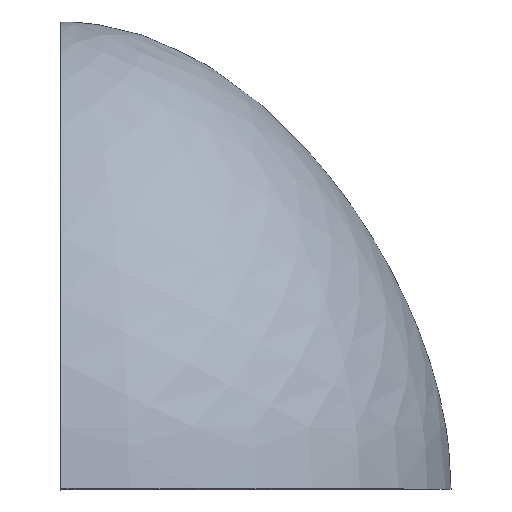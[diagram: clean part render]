
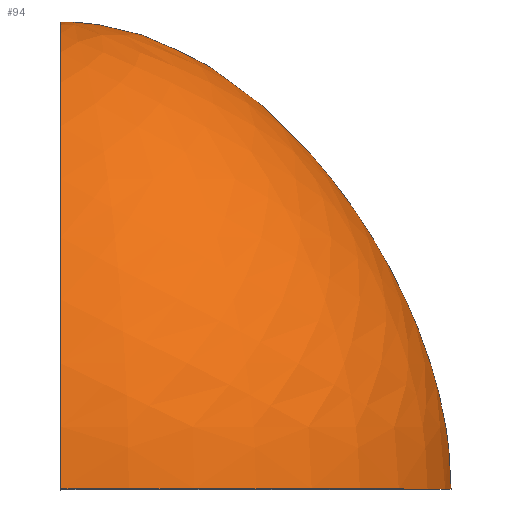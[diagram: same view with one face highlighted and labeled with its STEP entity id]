
A CAD part, top view. The second image highlights one B-rep face of the part: STEP entity #94.
In plain terms, the highlighted face is a revolution surface.
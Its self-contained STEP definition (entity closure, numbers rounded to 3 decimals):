
#52=CARTESIAN_POINT('Control Point',(0.,0.,91.)) ;
#53=CARTESIAN_POINT('Control Point',(0.,28.399,91.)) ;
#54=CARTESIAN_POINT('Control Point',(0.,59.198,78.899)) ;
#55=CARTESIAN_POINT('Control Point',(0.,92.399,54.698)) ;
#56=CARTESIAN_POINT('Control Point',(0.,109.,28.399)) ;
#57=CARTESIAN_POINT('Control Point',(0.,109.,0.)) ;
#58=CARTESIAN_POINT('Axis1P Location',(0.,0.,0.)) ;
#63=CARTESIAN_POINT('Control Point',(0.,0.,-91.)) ;
#64=CARTESIAN_POINT('Control Point',(0.,28.399,-91.)) ;
#65=CARTESIAN_POINT('Control Point',(0.,59.198,-78.899)) ;
#66=CARTESIAN_POINT('Control Point',(0.,92.399,-54.698)) ;
#67=CARTESIAN_POINT('Control Point',(0.,109.,-28.399)) ;
#68=CARTESIAN_POINT('Control Point',(0.,109.,0.)) ;
#69=CARTESIAN_POINT('Vertex',(0.,0.,-91.)) ;
#71=CARTESIAN_POINT('Vertex',(0.,109.,0.)) ;
#75=CARTESIAN_POINT('Control Point',(0.,0.,91.)) ;
#76=CARTESIAN_POINT('Control Point',(0.,28.399,91.)) ;
#77=CARTESIAN_POINT('Control Point',(0.,59.198,78.899)) ;
#78=CARTESIAN_POINT('Control Point',(0.,92.399,54.698)) ;
#79=CARTESIAN_POINT('Control Point',(0.,109.,28.399)) ;
#80=CARTESIAN_POINT('Control Point',(0.,109.,0.)) ;
#81=CARTESIAN_POINT('Vertex',(0.,0.,91.)) ;
#84=CARTESIAN_POINT('Axis2P3D Location',(0.,0.,0.)) ;
#59=DIRECTION('Axis1P Direction',(0.,1.,0.)) ;
#85=DIRECTION('Axis2P3D Direction',(0.,1.,0.)) ;
#86=AXIS2_PLACEMENT_3D('Circle Axis2P3D',#84,#85,$) ;
#90=ORIENTED_EDGE('',*,*,#73,.T.) ;
#91=ORIENTED_EDGE('',*,*,#83,.F.) ;
#92=ORIENTED_EDGE('',*,*,#88,.T.) ;
#94=ADVANCED_FACE('PartBody',(#93),#61,.T.) ;
#60=AXIS1_PLACEMENT('Revolution Surface Axis1P',#58,#59) ;
#51=B_SPLINE_CURVE_WITH_KNOTS('',5,(#52,#53,#54,#55,#56,#57),.UNSPECIFIED.,.F.,.U.,(6,6),(0.,141.993),.UNSPECIFIED.) ;
#62=B_SPLINE_CURVE_WITH_KNOTS('',5,(#63,#64,#65,#66,#67,#68),.UNSPECIFIED.,.F.,.U.,(6,6),(0.,141.993),.UNSPECIFIED.) ;
#74=B_SPLINE_CURVE_WITH_KNOTS('',5,(#75,#76,#77,#78,#79,#80),.UNSPECIFIED.,.F.,.U.,(6,6),(0.,141.993),.UNSPECIFIED.) ;
#87=CIRCLE('generated circle',#86,91.) ;
#73=EDGE_CURVE('',#70,#72,#62,.T.) ;
#83=EDGE_CURVE('',#82,#72,#74,.T.) ;
#88=EDGE_CURVE('',#82,#70,#87,.T.) ;
#89=EDGE_LOOP('',(#90,#91,#92)) ;
#93=FACE_OUTER_BOUND('',#89,.T.) ;
#61=SURFACE_OF_REVOLUTION('Surface of Revolution',#51,#60) ;
#70=VERTEX_POINT('',#69) ;
#72=VERTEX_POINT('',#71) ;
#82=VERTEX_POINT('',#81) ;
